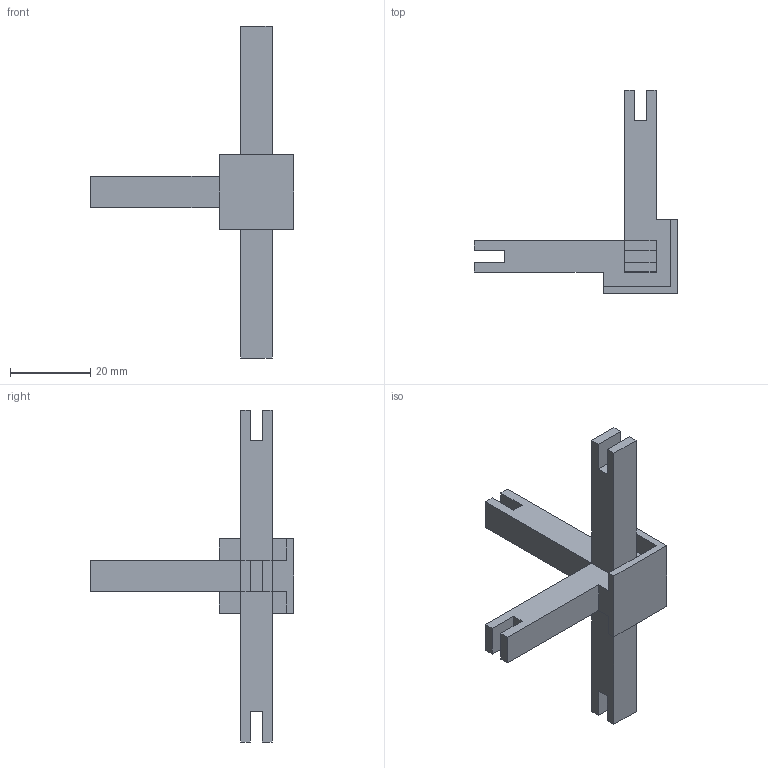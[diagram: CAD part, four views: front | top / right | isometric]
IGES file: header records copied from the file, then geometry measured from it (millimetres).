
Start section: Data from Parasolid IGES Translator 20.0.26, Copyright(c) 2006 Siemens P LM Software. All Rights Reserved.
Global section: file name: 9298841.igs; native system: By Siemens PLM Incorporated; preprocessor: XPlus GENERIC/IGES 20.0.26; author: Noname; organization: Noname; date: 20210823.121912; units: millimetre
Bounding box: 50.5 x 50.5 x 82.5 mm (x, y, z)
Surface area: 6611.7 mm2 (no closed solid volume)
Topology: 0 solids, 0 shells, 44 faces, 240 edges, 238 vertices
Faces by surface type: extrusion 44
